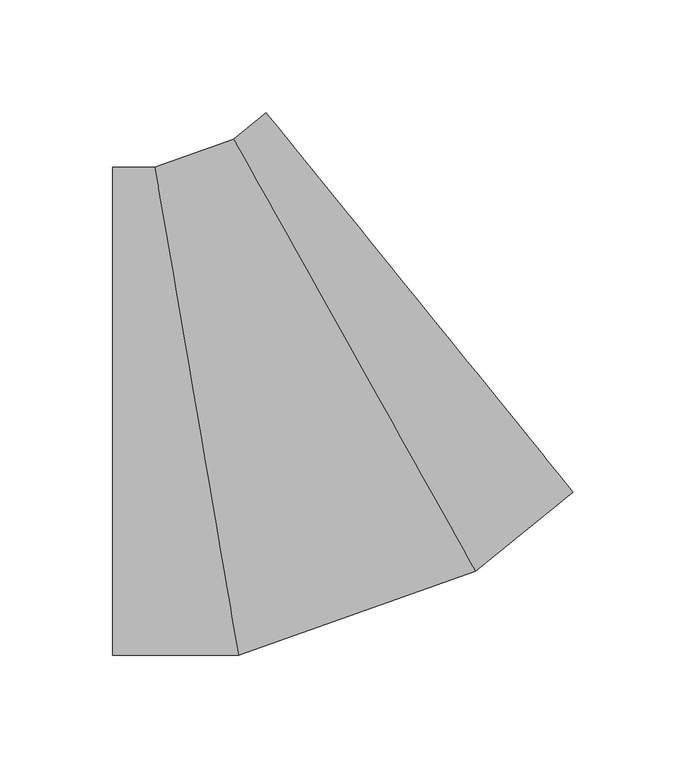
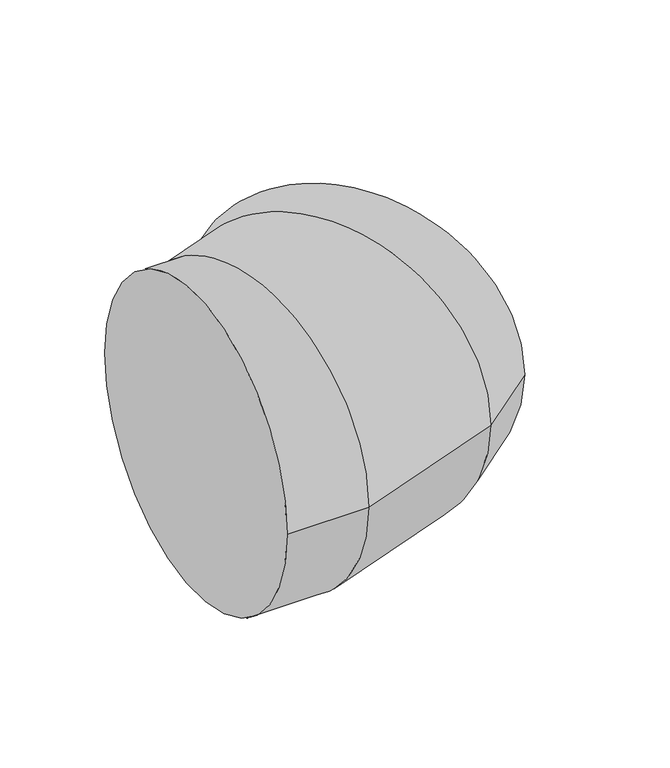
"""IFC4 building model written with IfcOpenShell, lengths in millimetres: duct fitting geometry, 17_Отвод_Заключение : 10_Отвод_3D объект."""

from ifc_helpers import new_model, si_unit, frame, origin, place, context, project, spatial, circle_curve, ellipse_curve, source, transform, mapped, element, save
from ifc_brep_helpers import plane_surface, cylinder_surface, advanced_brep


def duct_fitting_1a50dd9c(model_context):
    return source(origin(), model_context, "Body", "AdvancedBrep", [
        advanced_brep(
        [(-76.4865723, -108.0, 0.0), (-76.4865723, 108.0, 0.0), (-20.8152754, -108.0, 0.0), (-57.9294733, 108.0, 0.0), (84.1413381, -70.8343907, 0.0), (-22.9439355, 120.3885364, 0.0), (127.4069378, -35.8003902, 0.0), (-8.5220689, 132.0665366, 0.0)],
        [
            (0, 1, circle_curve(frame((-76.4865723, 0.0, 0.0), z_axis=(-1.0, 0.0, 0.0), x_axis=(0.0, 1.0, 0.0)), 108.0)),
            (1, 0, circle_curve(frame((-76.4865723, 0.0, 0.0), z_axis=(-1.0, 0.0, 0.0), x_axis=(0.0, 1.0, 0.0)), 108.0)),
            (0, 2),
            (2, 3, ellipse_curve(frame((-39.3723744, 0.0, 0.0), z_axis=(-0.9855571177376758, -0.16934334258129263, 0.0), x_axis=(-0.16934334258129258, 0.9855571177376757, 0.0)), 109.5826899, 108.0)),
            (3, 1),
            (3, 2, ellipse_curve(frame((-39.3723744, 0.0, 0.0), z_axis=(-0.9855571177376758, -0.16934334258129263, 0.0), x_axis=(-0.16934334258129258, 0.9855571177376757, 0.0)), 109.5826899, 108.0)),
            (2, 4),
            (4, 5, ellipse_curve(frame((30.5987013, 24.7770729, 0.0), z_axis=(-0.8725051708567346, -0.48860487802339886, 0.0), x_axis=(-0.48860487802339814, 0.8725051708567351, 0.0)), 109.5826899, 108.0)),
            (5, 3),
            (5, 4, ellipse_curve(frame((30.5987013, 24.7770729, 0.0), z_axis=(-0.8725051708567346, -0.48860487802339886, 0.0), x_axis=(-0.48860487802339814, 0.8725051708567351, 0.0)), 109.5826899, 108.0)),
            (4, 6),
            (6, 7, circle_curve(frame((59.4424344, 48.1330732, 0.0), z_axis=(-0.7771616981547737, -0.6293009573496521, 0.0), x_axis=(-0.6293009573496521, 0.7771616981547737, 0.0)), 108.0)),
            (7, 5),
            (7, 6, circle_curve(frame((59.4424344, 48.1330732, 0.0), z_axis=(-0.7771616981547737, -0.6293009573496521, 0.0), x_axis=(-0.6293009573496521, 0.7771616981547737, 0.0)), 108.0)),
        ],
        [
            plane_surface(frame((-76.4865723, 0.0, 0.0), z_axis=(-1.0, 0.0, 0.0), x_axis=(0.0, 0.0, 1.0))),
            cylinder_surface(frame((-76.4865723, 0.0, 0.0), z_axis=(-1.0, 0.0, 0.0), x_axis=(0.0, 1.0, 0.0)), 108.0),
            cylinder_surface(frame((-39.3723744, 0.0, 0.0), z_axis=(-0.9426456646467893, -0.3337950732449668, 0.0), x_axis=(-0.3337950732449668, 0.9426456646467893, 0.0)), 108.0),
            cylinder_surface(frame((30.5987013, 24.7770729, 0.0), z_axis=(-0.7771616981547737, -0.6293009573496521, 0.0), x_axis=(-0.6293009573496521, 0.7771616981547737, 0.0)), 108.0),
            plane_surface(frame((59.4424344, 48.1330732, 0.0), z_axis=(0.7771616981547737, 0.6293009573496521, 0.0), x_axis=(0.0, 0.0, 1.0))),
        ],
        [
            (0, [[1, 2]]),
            (1, [[-1, 3, 4, 5]]),
            (1, [[-2, -5, 6, -3]]),
            (2, [[-4, 7, 8, 9]]),
            (2, [[-6, -9, 10, -7]]),
            (3, [[-8, 11, 12, 13]]),
            (3, [[-10, -13, 14, -11]]),
            (4, [[-14, -12]]),
        ],
    ),
    ])


if __name__ == "__main__":
    model = new_model("IFC4")
    model_context = context("Model", 3, world=origin())
    ifc_project = project(units=[si_unit("LENGTHUNIT", "METRE", prefix="MILLI")], contexts=[model_context])
    site = spatial("IfcSite", under=ifc_project)
    building = spatial("IfcBuilding", under=site)
    placement = place(None, origin())
    duct_fitting_shape = duct_fitting_1a50dd9c(model_context)
    element("IfcDuctFitting", 1, ObjectType="17_Отвод_Заключение : 10_Отвод_3D объект", at=placement, inside=building, context=model_context, shape_type="MappedRepresentation", body=[
        mapped(duct_fitting_shape, transform((0.0, 0.0, 0.0), x_axis=(1.0, 0.0, 0.0), y_axis=(0.0, 1.0, 0.0), z_axis=(0.0, 0.0, 1.0))),
    ])
    save(model, "model.ifc")
